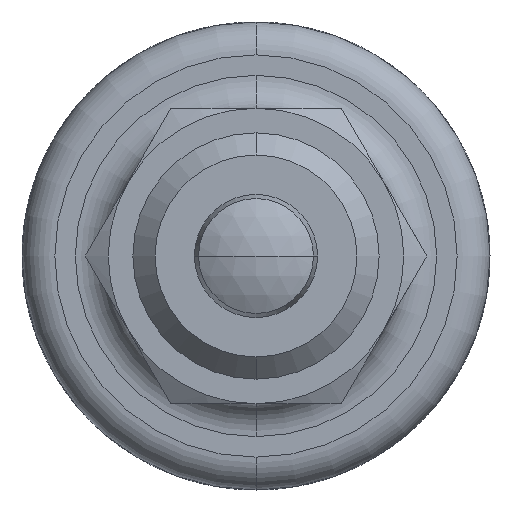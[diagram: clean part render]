
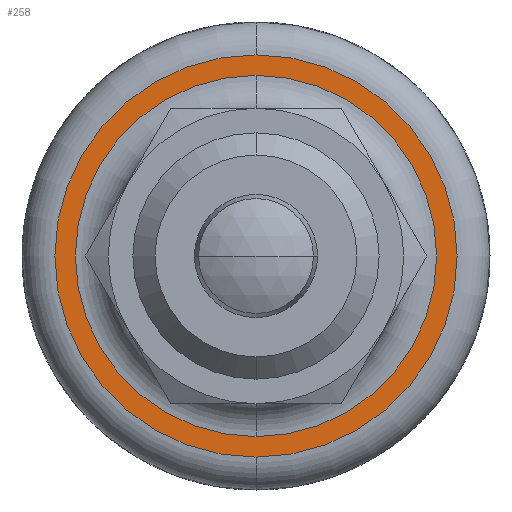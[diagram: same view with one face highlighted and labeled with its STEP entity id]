
A CAD part, front view. The second image highlights one B-rep face of the part: STEP entity #258.
In plain terms, the highlighted planar face has unit normal (0, -1, 0).
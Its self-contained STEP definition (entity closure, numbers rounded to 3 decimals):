
#248 = EDGE_CURVE ( 'NONE', #1142, #1141, #4060, .T. ) ;
#249 = ORIENTED_EDGE ( 'NONE', *, *, #1624, .T. ) ;
#251 = ORIENTED_EDGE ( 'NONE', *, *, #252, .T. ) ;
#252 = EDGE_CURVE ( 'NONE', #1613, #1614, #4055, .T. ) ;
#253 = EDGE_LOOP ( 'NONE', ( #251, #249 ) ) ;
#255 = ORIENTED_EDGE ( 'NONE', *, *, #1143, .T. ) ;
#258 = ADVANCED_FACE ( 'NONE', ( #4046, #4104 ), #4103, .F. ) ;
#261 = ORIENTED_EDGE ( 'NONE', *, *, #248, .T. ) ;
#265 = EDGE_LOOP ( 'NONE', ( #261, #255 ) ) ;
#1141 = VERTEX_POINT ( 'NONE', #5789 ) ;
#1142 = VERTEX_POINT ( 'NONE', #5788 ) ;
#1143 = EDGE_CURVE ( 'NONE', #1141, #1142, #5787, .T. ) ;
#1613 = VERTEX_POINT ( 'NONE', #6628 ) ;
#1614 = VERTEX_POINT ( 'NONE', #6627 ) ;
#1624 = EDGE_CURVE ( 'NONE', #1614, #1613, #6610, .T. ) ;
#4046 = FACE_BOUND ( 'NONE', #265, .T. ) ;
#4051 = DIRECTION ( 'NONE',  ( 0., 0., 1. ) ) ;
#4052 = DIRECTION ( 'NONE',  ( 0., -1., 0. ) ) ;
#4053 = CARTESIAN_POINT ( 'NONE',  ( 0., 10.667, 0. ) ) ;
#4054 = AXIS2_PLACEMENT_3D ( 'NONE', #4053, #4052, #4051 ) ;
#4055 = CIRCLE ( 'NONE', #4054, 8.167 ) ;
#4056 = DIRECTION ( 'NONE',  ( 0., 0., 1. ) ) ;
#4057 = DIRECTION ( 'NONE',  ( 0., 1., 0. ) ) ;
#4058 = CARTESIAN_POINT ( 'NONE',  ( 0., 10.667, 0. ) ) ;
#4059 = AXIS2_PLACEMENT_3D ( 'NONE', #4058, #4057, #4056 ) ;
#4060 = CIRCLE ( 'NONE', #4059, 7.333 ) ;
#4099 = DIRECTION ( 'NONE',  ( 0., 0., 1. ) ) ;
#4100 = DIRECTION ( 'NONE',  ( 0., 1., 0. ) ) ;
#4101 = CARTESIAN_POINT ( 'NONE',  ( 0., 10.667, 0. ) ) ;
#4102 = AXIS2_PLACEMENT_3D ( 'NONE', #4101, #4100, #4099 ) ;
#4103 = PLANE ( 'NONE',  #4102 ) ;
#4104 = FACE_OUTER_BOUND ( 'NONE', #253, .T. ) ;
#5783 = DIRECTION ( 'NONE',  ( 0., 0., 1. ) ) ;
#5784 = DIRECTION ( 'NONE',  ( 0., 1., 0. ) ) ;
#5785 = CARTESIAN_POINT ( 'NONE',  ( 0., 10.667, 0. ) ) ;
#5786 = AXIS2_PLACEMENT_3D ( 'NONE', #5785, #5784, #5783 ) ;
#5787 = CIRCLE ( 'NONE', #5786, 7.333 ) ;
#5788 = CARTESIAN_POINT ( 'NONE',  ( 0., 10.667, 7.333 ) ) ;
#5789 = CARTESIAN_POINT ( 'NONE',  ( 0., 10.667, -7.333 ) ) ;
#6606 = DIRECTION ( 'NONE',  ( 0., 0., 1. ) ) ;
#6607 = DIRECTION ( 'NONE',  ( 0., -1., 0. ) ) ;
#6608 = CARTESIAN_POINT ( 'NONE',  ( 0., 10.667, 0. ) ) ;
#6609 = AXIS2_PLACEMENT_3D ( 'NONE', #6608, #6607, #6606 ) ;
#6610 = CIRCLE ( 'NONE', #6609, 8.167 ) ;
#6627 = CARTESIAN_POINT ( 'NONE',  ( 0., 10.667, -8.167 ) ) ;
#6628 = CARTESIAN_POINT ( 'NONE',  ( 0., 10.667, 8.167 ) ) ;
